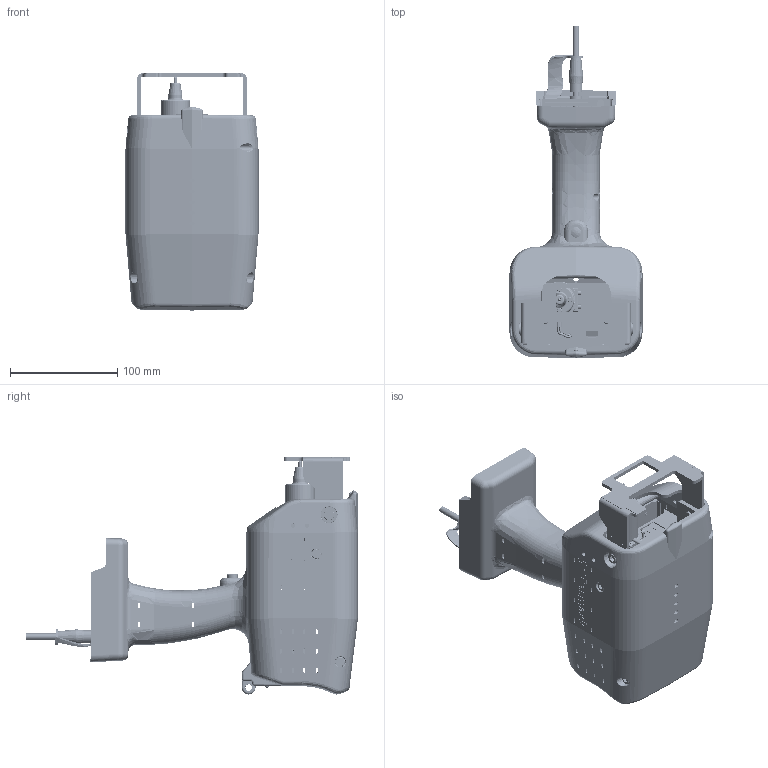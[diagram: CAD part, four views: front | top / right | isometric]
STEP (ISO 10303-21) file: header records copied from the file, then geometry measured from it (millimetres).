
FILE_DESCRIPTION (( 'STEP AP203' ), '1' );
FILE_NAME ('Patmark_180620 HP—p 3D AC adapter type.STEP', '2018-12-05T03:57:56', ( '' ), ( '' ), 'SwSTEP 2.0', 'SolidWorks 2016', '' );
FILE_SCHEMA (( 'CONFIG_CONTROL_DESIGN' ));
Length unit declared in the file: millimetre
Products named in the file (1): Patmark_180620 HP用 3D AC adapter type
Bounding box: 125.6 x 309.5 x 221 mm (x, y, z)
Volume: 625232.1 mm3; surface area: 518192.3 mm2
Topology: 114 solids, 114 shells, 5986 faces, 15327 edges, 9793 vertices
Faces by surface type: plane 3068, cylinder 1473, cone 850, bspline 461, torus 94, sphere 40
Entity records: 211791 total; most frequent: CARTESIAN_POINT 69620, ORIENTED_EDGE 30526, DIRECTION 27924, EDGE_CURVE 15263, VERTEX_POINT 9791, AXIS2_PLACEMENT_3D 9378, LINE 9168, VECTOR 9168
